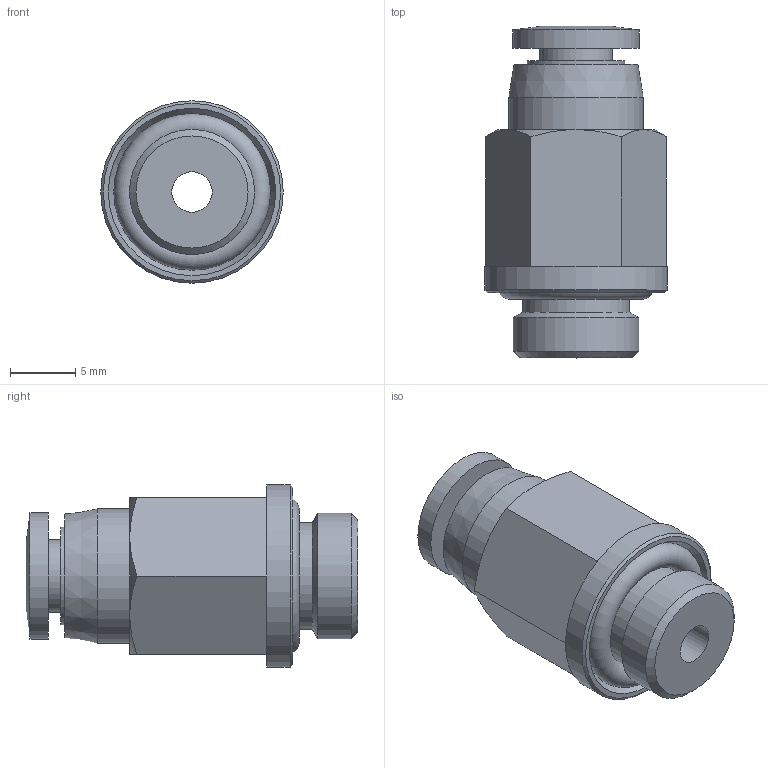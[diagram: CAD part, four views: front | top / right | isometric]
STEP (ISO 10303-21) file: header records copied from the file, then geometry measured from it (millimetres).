
FILE_DESCRIPTION((''),'2;1');
FILE_NAME('D:\INVENTOR\[New Inventor]\CDC Products 3D Ass''y\Stop Fittings\G\SPC-G\SPC04-G01.stp','2009-02-13T13:31:06',('Microsoft'),(''),'Autodesk Inventor 2008','Autodesk Inventor 2008','');
FILE_SCHEMA(('AUTOMOTIVE_DESIGN { 1 0 10303 214 1 1 1 1 }'));
Length unit declared in the file: millimetre
Products named in the file (1): SPC04-G01
Bounding box: 14 x 25.45 x 14 mm (x, y, z)
Volume: 2214.1 mm3; surface area: 1841.4 mm2
Topology: 2 solids, 2 shells, 42 faces, 82 edges, 49 vertices
Faces by surface type: plane 17, cone 12, cylinder 10, torus 3
Full cylindrical faces by diameter (mm): 3.1 x1, 4.3 x1, 5.6 x1, 7.5 x1, 8.2 x2, 9.6 x1, 9.7 x1, 10.3 x1, 14 x1
Entity records: 956 total; most frequent: CARTESIAN_POINT 171, DIRECTION 168, ORIENTED_EDGE 118, AXIS2_PLACEMENT_3D 78, EDGE_LOOP 72, EDGE_CURVE 59, VERTEX_POINT 45, FACE_OUTER_BOUND 42
